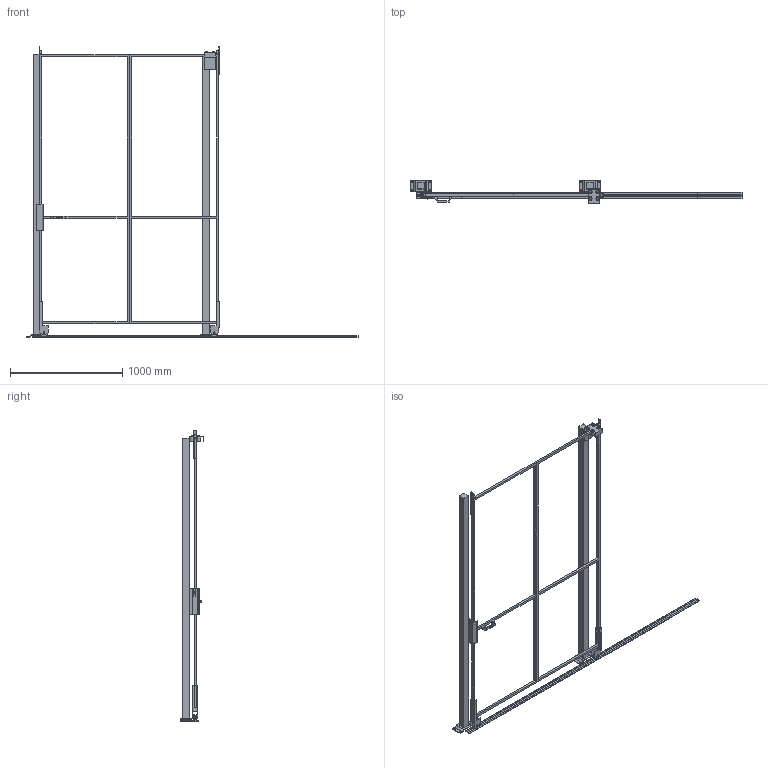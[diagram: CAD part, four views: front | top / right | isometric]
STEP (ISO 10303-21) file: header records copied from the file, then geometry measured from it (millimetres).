
FILE_DESCRIPTION(/* description */ (''),/* implementation_level */ '2;1');
FILE_NAME(/* name */ 'C:\SafeGuarding\ELABORATI\Drawing5_2025-05-13-10-11-14.stp',/* time_stamp */ '2025-05-13T10:11:16+02:00',/* author */ ('admin'),/* organization */ (''),/* preprocessor_version */ 'ST-DEVELOPER v18.1',/* originating_system */ 'AutoCAD Mechanical',/* authorisation */ '');
FILE_SCHEMA (('AUTOMOTIVE_DESIGN { 1 0 10303 214 3 1 1 }'));
Length unit declared in the file: millimetre
Products named in the file (3): Product; VFPA.REPE2008002400; P_VFMA.V260SDU.2520
Assembly tree (4 placements, depth 2):
  Product
    VFPA.REPE2008002400  x2
    P_VFMA.V260SDU.2520  x2
Bounding box: 2961.01 x 210.01 x 2590 mm (x, y, z)
Volume: 26048482.1 mm3; surface area: 3502644.1 mm2
Topology: 30 solids, 41 shells, 335 faces, 1126 edges, 1101 vertices
Faces by surface type: plane 289, cylinder 40, cone 4, sphere 2
Full cylindrical faces by diameter (mm): 9 x4, 11 x8, 13 x4, 18 x4, 30 x2, 36 x4, 58 x4
Entity records: 10540 total; most frequent: CARTESIAN_POINT 2245, DIRECTION 1608, ORIENTED_EDGE 1478, EDGE_CURVE 788, LINE 708, VECTOR 708, VERTEX_POINT 566, AXIS2_PLACEMENT_3D 450
